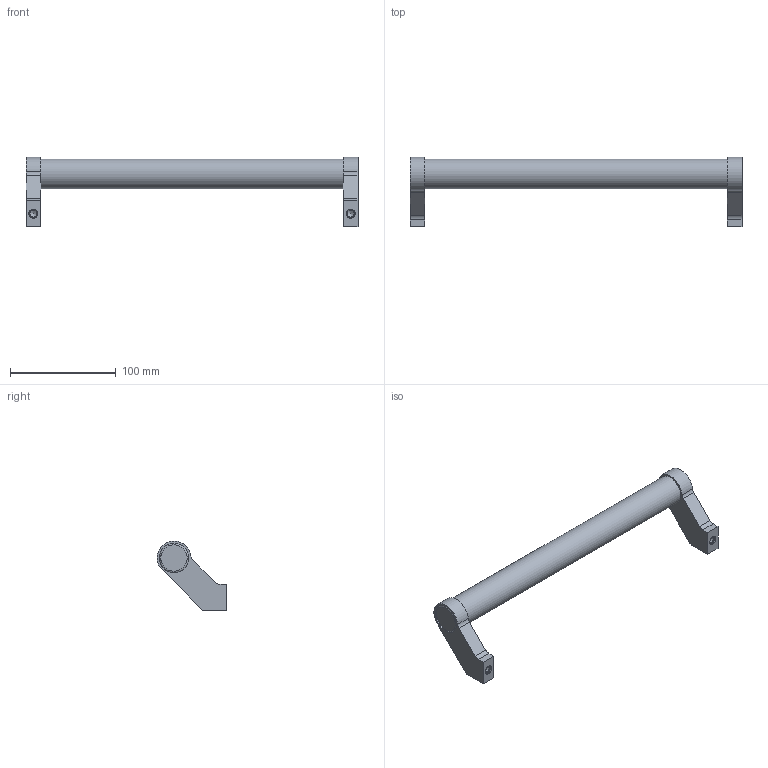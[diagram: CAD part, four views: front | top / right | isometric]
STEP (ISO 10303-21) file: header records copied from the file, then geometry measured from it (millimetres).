
FILE_DESCRIPTION( ( 'STEP AP203' ), '1' );
FILE_NAME( 'C:/Temp/Ganter_Step_05_03_2020/data/1_2/gn333/Tubular handle GN 333-28-300-A-EL.stp', '2020-03-05T10:16:14', ( 'License CC BY-ND 4.0' ), ( 'CADENAS' ), ' ', 'PARTsolutions', ' ' );
FILE_SCHEMA( ( 'CONFIG_CONTROL_DESIGN' ) );
Length unit declared in the file: millimetre
Products named in the file (1): _Tubular handle GN 333-28-300-A-EL
Bounding box: 314 x 65.95 x 65.97 mm (x, y, z)
Volume: 236646.6 mm3; surface area: 39856.2 mm2
Topology: 1 solids, 1 shells, 47 faces, 110 edges, 71 vertices
Faces by surface type: plane 26, cylinder 15, cone 4, torus 2
Full cylindrical faces by diameter (mm): 6.647 x2, 8.5 x2, 28 x3
Entity records: 1348 total; most frequent: CARTESIAN_POINT 278, DIRECTION 218, ORIENTED_EDGE 188, EDGE_CURVE 94, AXIS2_PLACEMENT_3D 84, VERTEX_POINT 68, EDGE_LOOP 64, FACE_OUTER_BOUND 54
